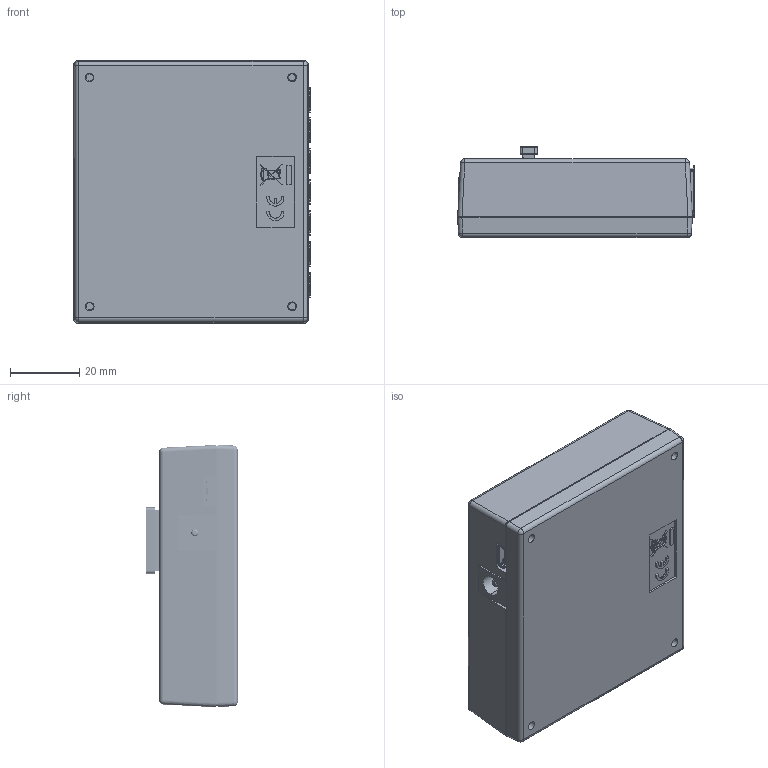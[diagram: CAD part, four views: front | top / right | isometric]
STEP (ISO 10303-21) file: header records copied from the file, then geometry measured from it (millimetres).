
FILE_DESCRIPTION(/* description */ ('Alibre Inc.'),/* implementation_level */ '2;1');
FILE_NAME(/* name */ 'export0',/* time_stamp */ '2018-08-07T09:58:03-06:00',/* author */ (''),/* organization */ (''),/* preprocessor_version */ 'ST-DEVELOPER v17',/* originating_system */ 'Alibre',/* authorisation */ '');
FILE_SCHEMA (('CONFIG_CONTROL_DESIGN'));
Length unit declared in the file: centimetre
Products named in the file (220): ID_1; ID_2; ID_3; ID_4; ID_5; ID_6; ID_7; ID_8; ID_9; ID_10; ID_11; ID_12; ID_13; ID_14; ID_15; ID_16; ID_17; ID_18; ID_19; ID_20; ID_21; ID_22; ID_23; ID_24; ID_25; ID_26; ID_27; ID_28; ID_29; ID_30; ID_31; ID_32; ID_33; ID_34; ID_35; ID_36; ID_37; ID_38; ID_39; ID_40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
Bounding box: 68.32 x 26.33 x 75.78 mm (x, y, z)
Volume: 62118.6 mm3; surface area: 83754.4 mm2
Topology: 162 solids, 162 shells, 9109 faces, 24650 edges, 16122 vertices
Faces by surface type: plane 6282, bspline 1395, cylinder 1370, cone 40, sphere 12, torus 10
Full cylindrical faces by diameter (mm): 0.381 x2, 0.6 x1, 1 x60, 1.067 x8, 1.45 x56, 1.575 x4, 1.6 x6, 1.778 x8, 3.124 x4, 3.175 x8
Entity records: 144766 total; most frequent: CARTESIAN_POINT 33931, ORIENTED_EDGE 19296, DIRECTION 14800, EDGE_CURVE 9648, VECTOR 6864, LINE 6864, VERTEX_POINT 6236, AXIS2_PLACEMENT_3D 5115
